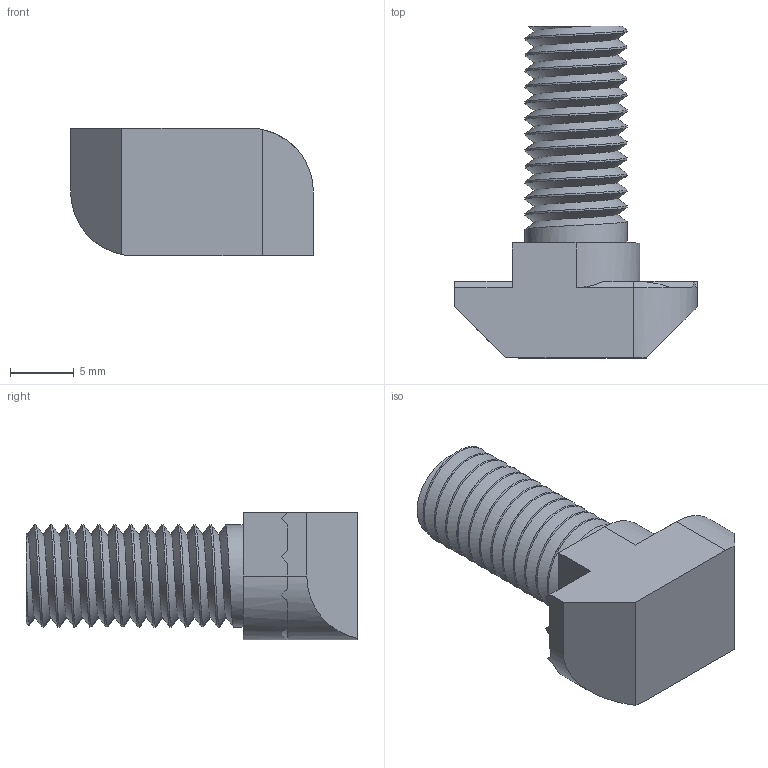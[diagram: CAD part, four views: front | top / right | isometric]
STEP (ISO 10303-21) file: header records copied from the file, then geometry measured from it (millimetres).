
FILE_DESCRIPTION(/* description */ ('Inserto a martello cava 10 filleto maschio M8x20'),/* implementation_level */ '2;1');
FILE_NAME(/* name */ 'C:\omnitec\Desktop\Inserti\N41-10-20.stp',/* time_stamp */ '2021-02-19T08:07:56+01:00',/* author */ ('omnitec'),/* organization */ ('Microsoft'),/* preprocessor_version */ 'ST-DEVELOPER v18.1',/* originating_system */ 'Autodesk Inventor 2021',/* authorisation */ '');
FILE_SCHEMA (('AUTOMOTIVE_DESIGN { 1 0 10303 214 3 1 1 }'));
Length unit declared in the file: millimetre
Products named in the file (1): N41-10-20
Bounding box: 19 x 26 x 10 mm (x, y, z)
Volume: 1904.2 mm3; surface area: 1348 mm2
Topology: 1 solids, 1 shells, 62 faces, 169 edges, 111 vertices
Faces by surface type: plane 40, cylinder 17, cone 3, bspline 2
Full cylindrical faces by diameter (mm): 8 x12
Entity records: 3669 total; most frequent: CARTESIAN_POINT 2104, ORIENTED_EDGE 338, DIRECTION 290, EDGE_CURVE 169, VERTEX_POINT 111, LINE 102, VECTOR 102, AXIS2_PLACEMENT_3D 94
